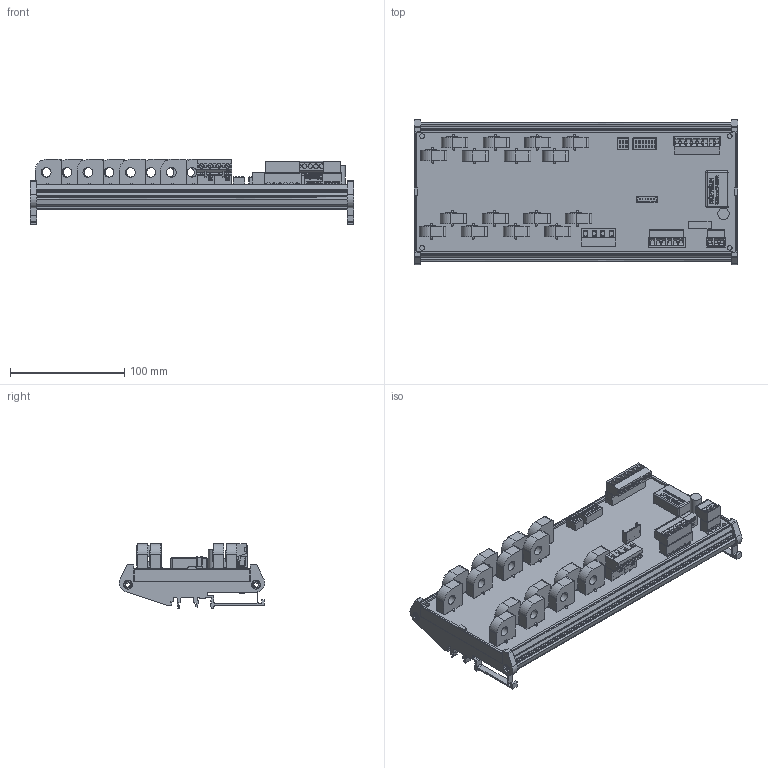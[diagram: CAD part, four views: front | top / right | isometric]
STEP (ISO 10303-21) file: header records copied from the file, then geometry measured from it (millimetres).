
FILE_DESCRIPTION(('FreeCAD Model'),'2;1');
FILE_NAME('C:/3D Files/Stringhe/ST0HS/ST0HS16xx/ST0HS16xx.step', '2023-01-13T09:16:04',('Author'),(''), 'Open CASCADE STEP processor 7.3','FreeCAD','Unknown');
FILE_SCHEMA(('AUTOMOTIVE_DESIGN { 1 0 10303 214 1 1 1 1 }'));
Length unit declared in the file: millimetre
Products named in the file (34): ST0HS16xx; AmpModu_6P_M; DipSwitch8; DipSwitch4; IB2405LS-1W; WRB2403ZP-6WR003; ELNA_470_uF_35_V; Mstb_06Pc_M; Mstb_06P_F; Mstb_03P_F; Mstb_03Pc_M; SH04-7,62; PV02-7,62-V-Pa; PV02-7,62-V-Pb; Mstb_8P_F; Mstb_8Pc_M; CHK-LSP5S2L-BP-CH_09; CHK-LSP5S2L-BP-CH_10; CHK-LSP5S2L-BP-CH_11; CHK-LSP5S2L-BP-CH_12; CHK-LSP5S2L-BP-CH_13; CHK-LSP5S2L-BP-CH_14; CHK-LSP5S2L-BP-CH_15; CHK-LSP5S2L-BP-CH_16; CHK-LSP5S2L-BP-CH_05; CHK-LSP5S2L-BP-CH_06; CHK-LSP5S2L-BP-CH_07; CHK-LSP5S2L-BP-CH_08; CHK-LSP5S2L-BP-CH_01; CHK-LSP5S2L-BP-CH_02; CHK-LSP5S2L-BP-CH_03; CHK-LSP5S2L-BP-CH_04; Stampato_279,7_x_108; Profilo_284x128
Assembly tree (33 placements, depth 2):
  ST0HS16xx
    AmpModu_6P_M
    DipSwitch8
    DipSwitch4
    IB2405LS-1W
    WRB2403ZP-6WR003
    ELNA_470_uF_35_V
    Mstb_06Pc_M
    Mstb_06P_F
    Mstb_03P_F
    Mstb_03Pc_M
    SH04-7,62
    PV02-7,62-V-Pa
    PV02-7,62-V-Pb
    Mstb_8P_F
    Mstb_8Pc_M
    CHK-LSP5S2L-BP-CH_09
    CHK-LSP5S2L-BP-CH_10
    CHK-LSP5S2L-BP-CH_11
    CHK-LSP5S2L-BP-CH_12
    CHK-LSP5S2L-BP-CH_13
    CHK-LSP5S2L-BP-CH_14
    CHK-LSP5S2L-BP-CH_15
    CHK-LSP5S2L-BP-CH_16
    CHK-LSP5S2L-BP-CH_05
    CHK-LSP5S2L-BP-CH_06
    CHK-LSP5S2L-BP-CH_07
    CHK-LSP5S2L-BP-CH_08
    CHK-LSP5S2L-BP-CH_01
    CHK-LSP5S2L-BP-CH_02
    CHK-LSP5S2L-BP-CH_03
    CHK-LSP5S2L-BP-CH_04
    Stampato_279,7_x_108
    Profilo_284x128
Bounding box: 284 x 127.59 x 57.69 mm (x, y, z)
Volume: 258880.9 mm3; surface area: 270650.2 mm2
Topology: 45 solids, 84 shells, 5781 faces, 16911 edges, 14277 vertices
Faces by surface type: plane 4418, cylinder 932, bspline 201, torus 152, cone 59, sphere 16, extrusion 3
Full cylindrical faces by diameter (mm): 0.5 x4, 0.75 x36, 1 x10, 1.5 x8, 1.6 x13, 3.8 x4, 4 x25, 4.3 x2, 7.9 x4, 9.202 x2, 10 x1
Entity records: 436078 total; most frequent: CARTESIAN_POINT 102034, DIRECTION 56480, VECTOR 39609, LINE 39606, ORIENTED_EDGE 31215, PCURVE 31215, DEFINITIONAL_REPRESENTATION 31215, EDGE_CURVE 15970
